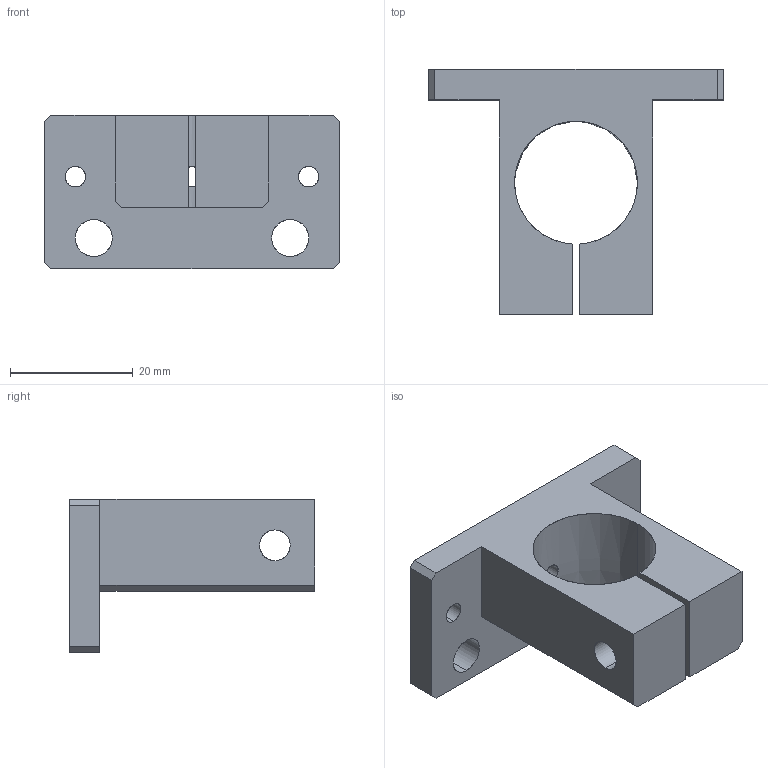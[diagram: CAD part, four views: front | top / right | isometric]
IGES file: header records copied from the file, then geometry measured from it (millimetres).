
Start section: SolidWorks IGES file using analytic representation for surfaces
Global section: file name: C:\Documents and Settings\CAD53\デスクトップ\IGES\N01866-403-1.IGS; native system: SolidWorks 2005 by SolidWorks Corporation; preprocessor: SolidWorks 2005 by SolidWorks Corporation; author: CAD53; date: 070530.113909; units: millimetre
Bounding box: 48 x 40 x 25 mm (x, y, z)
Surface area: 7117.5 mm2 (no closed solid volume)
Topology: 0 solids, 0 shells, 41 faces, 786 edges, 786 vertices
Faces by surface type: revolution 21, bspline 20
